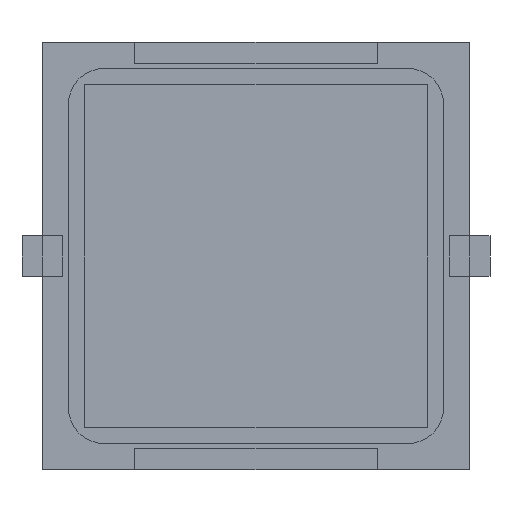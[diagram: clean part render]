
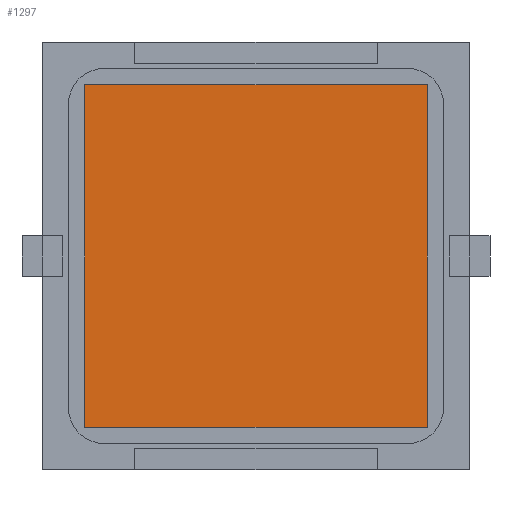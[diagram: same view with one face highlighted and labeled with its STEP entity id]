
A CAD part, front view. The second image highlights one B-rep face of the part: STEP entity #1297.
In plain terms, the highlighted planar face has unit normal (0, -1, 0).
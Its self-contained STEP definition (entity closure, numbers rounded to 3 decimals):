
#74 = DIRECTION ( 'NONE',  ( 0., 1., 0. ) ) ;
#146 = EDGE_CURVE ( 'NONE', #4666, #1040, #1836, .T. ) ;
#203 = DIRECTION ( 'NONE',  ( -1., 0., 0. ) ) ;
#344 = CARTESIAN_POINT ( 'NONE',  ( -8.5, -0.1, 8.5 ) ) ;
#372 = CARTESIAN_POINT ( 'NONE',  ( 8.5, -0.1, 8.5 ) ) ;
#593 = ORIENTED_EDGE ( 'NONE', *, *, #3945, .F. ) ;
#821 = CARTESIAN_POINT ( 'NONE',  ( -8.5, -0.1, 8.5 ) ) ;
#1040 = VERTEX_POINT ( 'NONE', #3031 ) ;
#1131 = DIRECTION ( 'NONE',  ( 0., 0., 1. ) ) ;
#1266 = CARTESIAN_POINT ( 'NONE',  ( -8.5, -0.1, -8.5 ) ) ;
#1293 = ORIENTED_EDGE ( 'NONE', *, *, #2994, .F. ) ;
#1297 = ADVANCED_FACE ( 'NONE', ( #1938 ), #3461, .F. ) ;
#1420 = VECTOR ( 'NONE', #1990, 1000. ) ;
#1426 = CARTESIAN_POINT ( 'NONE',  ( -8.5, -0.1, -8.5 ) ) ;
#1520 = LINE ( 'NONE', #344, #4293 ) ;
#1727 = VERTEX_POINT ( 'NONE', #1426 ) ;
#1836 = LINE ( 'NONE', #4815, #2404 ) ;
#1921 = DIRECTION ( 'NONE',  ( 1., 0., 0. ) ) ;
#1938 = FACE_OUTER_BOUND ( 'NONE', #2489, .T. ) ;
#1990 = DIRECTION ( 'NONE',  ( 0., 0., 1. ) ) ;
#2091 = CARTESIAN_POINT ( 'NONE',  ( -8.5, -0.1, -8.5 ) ) ;
#2404 = VECTOR ( 'NONE', #4034, 1000. ) ;
#2489 = EDGE_LOOP ( 'NONE', ( #1293, #593, #4105, #3855 ) ) ;
#2994 = EDGE_CURVE ( 'NONE', #1727, #4003, #4591, .T. ) ;
#3031 = CARTESIAN_POINT ( 'NONE',  ( 8.5, -0.1, -8.5 ) ) ;
#3461 = PLANE ( 'NONE',  #4455 ) ;
#3752 = VECTOR ( 'NONE', #203, 1000. ) ;
#3855 = ORIENTED_EDGE ( 'NONE', *, *, #4598, .F. ) ;
#3945 = EDGE_CURVE ( 'NONE', #1040, #1727, #4757, .T. ) ;
#4003 = VERTEX_POINT ( 'NONE', #821 ) ;
#4034 = DIRECTION ( 'NONE',  ( 0., 0., -1. ) ) ;
#4105 = ORIENTED_EDGE ( 'NONE', *, *, #146, .F. ) ;
#4293 = VECTOR ( 'NONE', #1921, 1000. ) ;
#4455 = AXIS2_PLACEMENT_3D ( 'NONE', #4468, #74, #1131 ) ;
#4468 = CARTESIAN_POINT ( 'NONE',  ( -8.5, -0.1, 8.5 ) ) ;
#4591 = LINE ( 'NONE', #1266, #1420 ) ;
#4598 = EDGE_CURVE ( 'NONE', #4003, #4666, #1520, .T. ) ;
#4666 = VERTEX_POINT ( 'NONE', #372 ) ;
#4757 = LINE ( 'NONE', #2091, #3752 ) ;
#4815 = CARTESIAN_POINT ( 'NONE',  ( 8.5, -0.1, -8.5 ) ) ;
